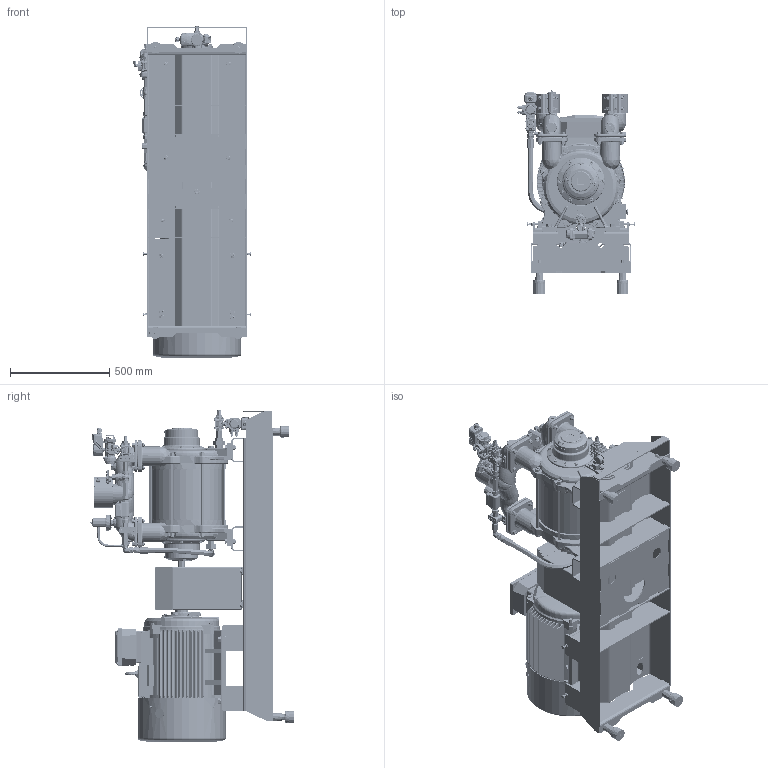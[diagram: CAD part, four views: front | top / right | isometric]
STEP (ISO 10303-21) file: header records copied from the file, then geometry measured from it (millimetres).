
FILE_DESCRIPTION(/* description */ (''),/* implementation_level */ '2;1');
FILE_NAME(/* name */ '1700143.stp',/* time_stamp */ '2025-04-30T15:33:43+02:00',/* author */ ('JJ'),/* organization */ (''),/* preprocessor_version */ 'ST-DEVELOPER v20',/* originating_system */ 'Autodesk Inventor 2025',/* authorisation */ '');
FILE_SCHEMA (('AUTOMOTIVE_DESIGN { 1 0 10303 214 3 1 1 }'));
Products named in the file (1): 1700143
Bounding box: 593.35 x 1025.65 x 1673.73 mm (x, y, z)
Volume: 105564407.1 mm3; surface area: 14028308.2 mm2
Topology: 234 solids, 234 shells, 26787 faces, 69230 edges, 43982 vertices
Faces by surface type: plane 12781, cylinder 5468, bspline 4443, cone 2230, torus 1664, sphere 201
Full cylindrical faces by diameter (mm): 0.8 x1, 0.847 x2, 0.857 x2, 1.656 x4, 1.7 x4, 1.8 x4, 2 x20, 2.2 x1, 2.5 x6, 3 x4, 3.2 x2, 3.3 x4, 3.6 x4, 4 x4, 4.134 x8, 4.2 x16, 4.3 x8, 4.45 x3, 4.567 x8, 4.917 x15, 4.92 x4, 5 x12, 5.3 x8, 5.6 x16, 6 x46, 6.1 x1, 6.4 x9, 6.5 x12, 6.647 x2, 6.7 x16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
Entity records: 1280742 total; most frequent: CARTESIAN_POINT 629803, ORIENTED_EDGE 137996, DIRECTION 116769, EDGE_CURVE 68998, VERTEX_POINT 43998, AXIS2_PLACEMENT_3D 40048, LINE 36673, VECTOR 36673
